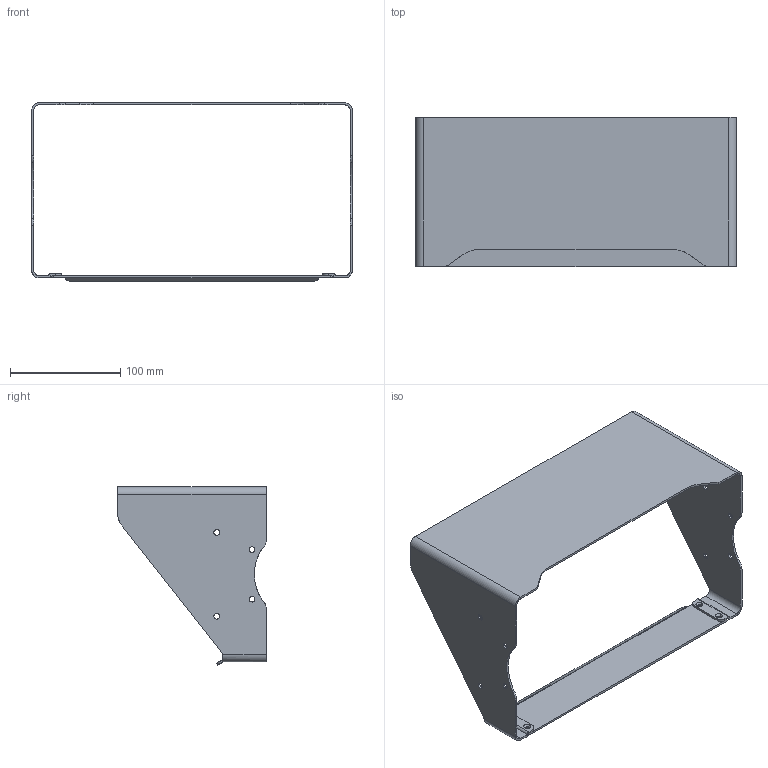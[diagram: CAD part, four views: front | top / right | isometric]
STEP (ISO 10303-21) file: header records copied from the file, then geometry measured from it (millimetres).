
FILE_DESCRIPTION(/* description */ (''),/* implementation_level */ '2;1');
FILE_NAME(/* name */ 'ROXX_NEO mini i_HalfGlareShield_3D_step',/* time_stamp */ '2025-07-25T13:51:01+02:00',/* author */ (''),/* organization */ (''),/* preprocessor_version */ 'ST-DEVELOPER v16.5',/* originating_system */ 'Rhino 7.38',/* authorisation */ '');
FILE_SCHEMA (('CONFIG_CONTROL_DESIGN'));
Length unit declared in the file: millimetre
Products named in the file (1): Document
Bounding box: 291 x 135 x 162 mm (x, y, z)
Volume: 154158.3 mm3; surface area: 157396.3 mm2
Topology: 1 solids, 1 shells, 117 faces, 323 edges, 206 vertices
Faces by surface type: cylinder 69, plane 40, bspline 8
Entity records: 3569 total; most frequent: CARTESIAN_POINT 1391, ORIENTED_EDGE 646, EDGE_CURVE 323, VERTEX_POINT 206, B_SPLINE_CURVE_WITH_KNOTS 185, EDGE_LOOP 141, ADVANCED_FACE 117, FACE_OUTER_BOUND 117
